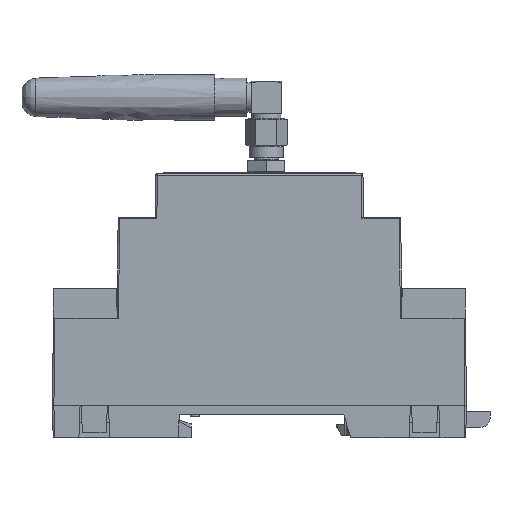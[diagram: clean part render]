
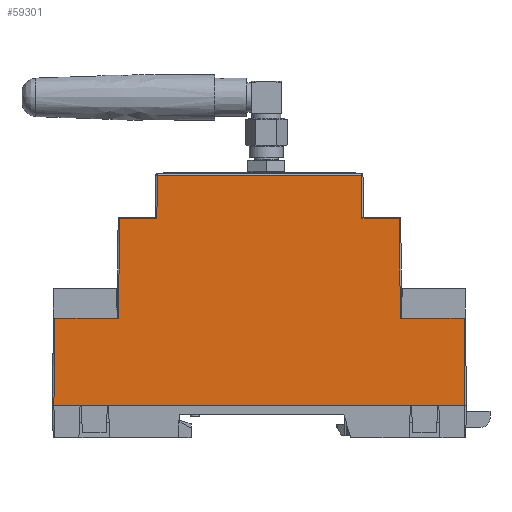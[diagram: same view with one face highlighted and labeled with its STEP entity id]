
A CAD part, front view. The second image highlights one B-rep face of the part: STEP entity #59301.
In plain terms, the highlighted planar face has unit normal (0, -1, 0.009) as drawn and (0, -1, -0.009) by its records, which use the part's own axes.
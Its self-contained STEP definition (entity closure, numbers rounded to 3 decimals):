
#4339=PLANE('',#63919);
#7472=FACE_OUTER_BOUND('',#10902,.T.);
#10902=EDGE_LOOP('',(#53143,#53144,#53145,#53146,#53147,#53148,#53149,#53150,
#53151,#53152,#53153,#53154,#53155,#53156,#53157,#53158));
#16932=LINE('',#95694,#23417);
#16946=LINE('',#95723,#23431);
#16991=LINE('',#95850,#23476);
#16992=LINE('',#95852,#23477);
#16993=LINE('',#95853,#23478);
#16994=LINE('',#95855,#23479);
#16995=LINE('',#95857,#23480);
#16996=LINE('',#95859,#23481);
#16997=LINE('',#95861,#23482);
#16998=LINE('',#95863,#23483);
#16999=LINE('',#95865,#23484);
#17000=LINE('',#95867,#23485);
#17001=LINE('',#95869,#23486);
#17002=LINE('',#95871,#23487);
#17003=LINE('',#95873,#23488);
#17004=LINE('',#95874,#23489);
#23417=VECTOR('',#77863,1000.);
#23431=VECTOR('',#77887,1000.);
#23476=VECTOR('',#78000,1000.);
#23477=VECTOR('',#78001,1000.);
#23478=VECTOR('',#78002,1000.);
#23479=VECTOR('',#78003,1000.);
#23480=VECTOR('',#78004,1000.);
#23481=VECTOR('',#78005,1000.);
#23482=VECTOR('',#78006,1000.);
#23483=VECTOR('',#78007,1000.);
#23484=VECTOR('',#78008,1000.);
#23485=VECTOR('',#78009,1000.);
#23486=VECTOR('',#78010,1000.);
#23487=VECTOR('',#78011,1000.);
#23488=VECTOR('',#78012,1000.);
#23489=VECTOR('',#78013,1000.);
#30416=VERTEX_POINT('',#95691);
#30417=VERTEX_POINT('',#95693);
#30426=VERTEX_POINT('',#95720);
#30427=VERTEX_POINT('',#95722);
#30475=VERTEX_POINT('',#95849);
#30476=VERTEX_POINT('',#95851);
#30477=VERTEX_POINT('',#95854);
#30478=VERTEX_POINT('',#95856);
#30479=VERTEX_POINT('',#95858);
#30480=VERTEX_POINT('',#95860);
#30481=VERTEX_POINT('',#95862);
#30482=VERTEX_POINT('',#95864);
#30483=VERTEX_POINT('',#95866);
#30484=VERTEX_POINT('',#95868);
#30485=VERTEX_POINT('',#95870);
#30486=VERTEX_POINT('',#95872);
#38123=EDGE_CURVE('',#30416,#30417,#16932,.T.);
#38138=EDGE_CURVE('',#30426,#30427,#16946,.T.);
#38203=EDGE_CURVE('',#30475,#30426,#16991,.T.);
#38204=EDGE_CURVE('',#30476,#30475,#16992,.T.);
#38205=EDGE_CURVE('',#30417,#30476,#16993,.T.);
#38206=EDGE_CURVE('',#30477,#30416,#16994,.T.);
#38207=EDGE_CURVE('',#30478,#30477,#16995,.T.);
#38208=EDGE_CURVE('',#30479,#30478,#16996,.T.);
#38209=EDGE_CURVE('',#30480,#30479,#16997,.T.);
#38210=EDGE_CURVE('',#30481,#30480,#16998,.T.);
#38211=EDGE_CURVE('',#30482,#30481,#16999,.T.);
#38212=EDGE_CURVE('',#30483,#30482,#17000,.T.);
#38213=EDGE_CURVE('',#30484,#30483,#17001,.T.);
#38214=EDGE_CURVE('',#30485,#30484,#17002,.T.);
#38215=EDGE_CURVE('',#30486,#30485,#17003,.T.);
#38216=EDGE_CURVE('',#30427,#30486,#17004,.T.);
#53143=ORIENTED_EDGE('',*,*,#38138,.F.);
#53144=ORIENTED_EDGE('',*,*,#38203,.F.);
#53145=ORIENTED_EDGE('',*,*,#38204,.F.);
#53146=ORIENTED_EDGE('',*,*,#38205,.F.);
#53147=ORIENTED_EDGE('',*,*,#38123,.F.);
#53148=ORIENTED_EDGE('',*,*,#38206,.F.);
#53149=ORIENTED_EDGE('',*,*,#38207,.F.);
#53150=ORIENTED_EDGE('',*,*,#38208,.F.);
#53151=ORIENTED_EDGE('',*,*,#38209,.F.);
#53152=ORIENTED_EDGE('',*,*,#38210,.F.);
#53153=ORIENTED_EDGE('',*,*,#38211,.F.);
#53154=ORIENTED_EDGE('',*,*,#38212,.F.);
#53155=ORIENTED_EDGE('',*,*,#38213,.F.);
#53156=ORIENTED_EDGE('',*,*,#38214,.F.);
#53157=ORIENTED_EDGE('',*,*,#38215,.F.);
#53158=ORIENTED_EDGE('',*,*,#38216,.F.);
#59301=ADVANCED_FACE('',(#7472),#4339,.T.);
#63919=AXIS2_PLACEMENT_3D('',#95848,#77998,#77999);
#77863=DIRECTION('',(1.,0.,0.));
#77887=DIRECTION('',(1.,0.,0.));
#77998=DIRECTION('center_axis',(0.,-1.,-0.009));
#77999=DIRECTION('ref_axis',(0.,0.009,-1.));
#78000=DIRECTION('',(1.,0.,0.));
#78001=DIRECTION('',(1.,0.,0.));
#78002=DIRECTION('',(1.,0.,0.));
#78003=DIRECTION('',(-0.009,-0.009,1.));
#78004=DIRECTION('',(-1.,0.,0.));
#78005=DIRECTION('',(-0.009,-0.009,1.));
#78006=DIRECTION('',(-1.,0.,0.));
#78007=DIRECTION('',(-0.009,-0.009,1.));
#78008=DIRECTION('',(-1.,0.,0.));
#78009=DIRECTION('',(-0.009,0.009,-1.));
#78010=DIRECTION('',(-1.,0.,0.));
#78011=DIRECTION('',(-0.009,0.009,-1.));
#78012=DIRECTION('',(-1.,0.,0.));
#78013=DIRECTION('',(-0.009,0.009,-1.));
#95691=CARTESIAN_POINT('',(-29630.192,-26789.581,37.513));
#95693=CARTESIAN_POINT('',(-29624.242,-26789.581,37.513));
#95694=CARTESIAN_POINT('',(-29630.492,-26789.581,37.513));
#95720=CARTESIAN_POINT('',(-29546.542,-26789.581,37.513));
#95722=CARTESIAN_POINT('',(-29540.592,-26789.581,37.513));
#95723=CARTESIAN_POINT('',(-29630.492,-26789.581,37.513));
#95848=CARTESIAN_POINT('Origin',(-29620.292,-26788.888,-41.977));
#95849=CARTESIAN_POINT('',(-29552.242,-26789.581,37.513));
#95850=CARTESIAN_POINT('',(-29620.292,-26789.581,37.513));
#95851=CARTESIAN_POINT('',(-29618.542,-26789.581,37.513));
#95852=CARTESIAN_POINT('',(-29620.292,-26789.581,37.513));
#95853=CARTESIAN_POINT('',(-29620.292,-26789.581,37.513));
#95854=CARTESIAN_POINT('',(-29630.026,-26789.416,18.513));
#95855=CARTESIAN_POINT('',(-29630.026,-26789.416,18.513));
#95856=CARTESIAN_POINT('',(-29616.092,-26789.416,18.513));
#95857=CARTESIAN_POINT('',(-29620.292,-26789.416,18.513));
#95858=CARTESIAN_POINT('',(-29615.903,-26789.226,-3.19));
#95859=CARTESIAN_POINT('',(-29615.903,-26789.226,-3.19));
#95860=CARTESIAN_POINT('',(-29607.745,-26789.226,-3.19));
#95861=CARTESIAN_POINT('',(-29620.292,-26789.226,-3.19));
#95862=CARTESIAN_POINT('',(-29607.662,-26789.143,-12.69));
#95863=CARTESIAN_POINT('',(-29607.662,-26789.143,-12.69));
#95864=CARTESIAN_POINT('',(-29563.122,-26789.143,-12.69));
#95865=CARTESIAN_POINT('',(-29620.292,-26789.143,-12.69));
#95866=CARTESIAN_POINT('',(-29563.039,-26789.226,-3.19));
#95867=CARTESIAN_POINT('',(-29563.039,-26789.226,-3.19));
#95868=CARTESIAN_POINT('',(-29554.881,-26789.226,-3.19));
#95869=CARTESIAN_POINT('',(-29620.292,-26789.226,-3.19));
#95870=CARTESIAN_POINT('',(-29554.692,-26789.416,18.513));
#95871=CARTESIAN_POINT('',(-29554.692,-26789.416,18.513));
#95872=CARTESIAN_POINT('',(-29540.758,-26789.416,18.513));
#95873=CARTESIAN_POINT('',(-29620.292,-26789.416,18.513));
#95874=CARTESIAN_POINT('',(-29540.592,-26789.581,37.513));
